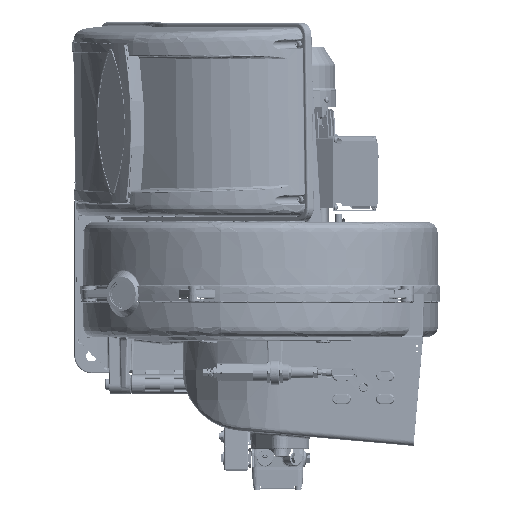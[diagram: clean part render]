
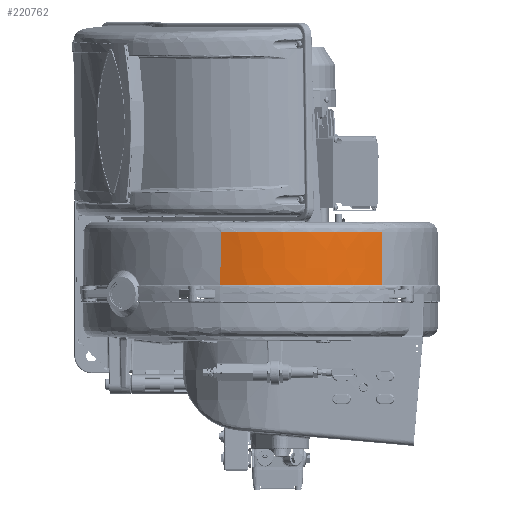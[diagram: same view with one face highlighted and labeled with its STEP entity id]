
A CAD part, left-side view. The second image highlights one B-rep face of the part: STEP entity #220762.
In plain terms, the highlighted free-form (B-spline) face has degree [3, 3] with [11, 4] control points.
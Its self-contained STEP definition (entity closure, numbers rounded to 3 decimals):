
#2608 = CARTESIAN_POINT ( 'NONE',  ( -227.738, -65.2, 11.983 ) ) ;
#13797 = EDGE_CURVE ( 'NONE', #159421, #225022, #214728, .T. ) ;
#13855 = CARTESIAN_POINT ( 'NONE',  ( -243.407, 22.954, 36.406 ) ) ;
#17289 = VERTEX_POINT ( 'NONE', #279460 ) ;
#19947 = CARTESIAN_POINT ( 'NONE',  ( -180.768, -141.215, 60.83 ) ) ;
#21118 = CARTESIAN_POINT ( 'NONE',  ( -181.405, -141.781, 11.983 ) ) ;
#22213 = CARTESIAN_POINT ( 'NONE',  ( -199.116, -117.673, 85.253 ) ) ;
#34675 = CARTESIAN_POINT ( 'NONE',  ( -241.986, -7.002, 11.983 ) ) ;
#37970 = CARTESIAN_POINT ( 'NONE',  ( -242.98, 22.955, 60.83 ) ) ;
#38627 = CARTESIAN_POINT ( 'NONE',  ( -238.603, 72.617, 11.983 ) ) ;
#46784 = CARTESIAN_POINT ( 'NONE',  ( -226.538, -64.749, 85.253 ) ) ;
#51879 = CARTESIAN_POINT ( 'NONE',  ( -186.958, -133.451, 85.253 ) ) ;
#54327 = CARTESIAN_POINT ( 'NONE',  ( -240.842, 52.753, 85.253 ) ) ;
#54533 = CARTESIAN_POINT ( 'NONE',  ( -187.291, -133.718, 60.83 ) ) ;
#64144 = CARTESIAN_POINT ( 'NONE',  ( -181.406, -141.781, 11.983 ) ) ;
#74021 = CARTESIAN_POINT ( 'NONE',  ( -237.348, 72.368, 85.253 ) ) ;
#89528 = CARTESIAN_POINT ( 'NONE',  ( -235.447, 82.103, 60.83 ) ) ;
#99567 = CARTESIAN_POINT ( 'NONE',  ( -238.185, 72.534, 36.406 ) ) ;
#102186 = CARTESIAN_POINT ( 'NONE',  ( -236.271, 82.321, 11.983 ) ) ;
#103394 = CARTESIAN_POINT ( 'NONE',  ( -226.938, -64.9, 60.83 ) ) ;
#104801 = CARTESIAN_POINT ( 'NONE',  ( -241.691, 52.862, 36.406 ) ) ;
#112258 = CARTESIAN_POINT ( 'NONE',  ( -181.087, -141.498, 36.406 ) ) ;
#117593 = CARTESIAN_POINT ( 'NONE',  ( -181.406, -141.781, 11.983 ) ) ;
#119004 = CARTESIAN_POINT ( 'NONE',  ( -236.271, 82.321, 11.983 ) ) ;
#121342 = B_SPLINE_SURFACE_WITH_KNOTS ( 'NONE', 3, 3, ( 
 ( #102186, #195989, #163839, #134283 ),
 ( #165167, #99567, #257605, #74021 ),
 ( #288465, #104801, #349832, #166478 ),
 ( #197337, #13855, #37970, #252336 ),
 ( #344543, #336182, #334814, #315910 ),
 ( #164643, #152268, #122742, #344862 ),
 ( #195004, #287019, #103394, #46784 ),
 ( #214403, #177721, #145583, #173763 ),
 ( #204603, #387838, #234055, #357077 ),
 ( #270225, #142924, #54533, #51879 ),
 ( #21118, #235386, #266243, #238045 ) ),
 .UNSPECIFIED., .F., .F., .F.,
 ( 4, 1, 1, 1, 1, 1, 1, 1, 4 ),
 ( 4, 4 ),
 ( 0., 29.865, 59.729, 89.594, 119.459, 149.323, 179.188, 209.053, 238.917 ),
 ( 0., 73.282 ),
 .UNSPECIFIED. ) ;
#122742 = CARTESIAN_POINT ( 'NONE',  ( -235.765, -36.322, 60.83 ) ) ;
#126246 = B_SPLINE_CURVE_WITH_KNOTS ( 'NONE', 3,
 ( #149349, #148027, #22213, #359507, #331453, #176183, #394267, #237835, #54327, #241761, #180132 ),
 .UNSPECIFIED., .F., .F.,
 ( 4, 1, 1, 1, 1, 1, 1, 1, 4 ),
 ( 0., 0.125, 0.25, 0.375, 0.5, 0.625, 0.75, 0.875, 1. ),
 .UNSPECIFIED. ) ;
#134283 = CARTESIAN_POINT ( 'NONE',  ( -235.028, 82.023, 85.253 ) ) ;
#142924 = CARTESIAN_POINT ( 'NONE',  ( -187.624, -133.985, 36.406 ) ) ;
#145583 = CARTESIAN_POINT ( 'NONE',  ( -214.78, -92.228, 60.83 ) ) ;
#148027 = CARTESIAN_POINT ( 'NONE',  ( -186.963, -133.444, 85.253 ) ) ;
#149349 = CARTESIAN_POINT ( 'NONE',  ( -180.449, -140.932, 85.253 ) ) ;
#152268 = CARTESIAN_POINT ( 'NONE',  ( -236.18, -36.424, 36.406 ) ) ;
#156593 = CARTESIAN_POINT ( 'NONE',  ( -236.271, 82.321, 11.983 ) ) ;
#159227 = CARTESIAN_POINT ( 'NONE',  ( -243.834, 22.953, 11.983 ) ) ;
#159421 = VERTEX_POINT ( 'NONE', #379679 ) ;
#160544 = CARTESIAN_POINT ( 'NONE',  ( -215.539, -92.621, 11.983 ) ) ;
#163839 = CARTESIAN_POINT ( 'NONE',  ( -235.442, 82.122, 60.83 ) ) ;
#164643 = CARTESIAN_POINT ( 'NONE',  ( -236.595, -36.525, 11.983 ) ) ;
#165167 = CARTESIAN_POINT ( 'NONE',  ( -238.603, 72.617, 11.983 ) ) ;
#166478 = CARTESIAN_POINT ( 'NONE',  ( -240.842, 52.762, 85.253 ) ) ;
#173763 = CARTESIAN_POINT ( 'NONE',  ( -214.401, -92.031, 85.253 ) ) ;
#176183 = CARTESIAN_POINT ( 'NONE',  ( -235.35, -36.221, 85.253 ) ) ;
#177721 = CARTESIAN_POINT ( 'NONE',  ( -215.16, -92.425, 36.406 ) ) ;
#180132 = CARTESIAN_POINT ( 'NONE',  ( -235.035, 81.994, 85.253 ) ) ;
#187341 = CARTESIAN_POINT ( 'NONE',  ( -242.115, 52.912, 11.983 ) ) ;
#191431 = EDGE_CURVE ( 'NONE', #373886, #17289, #126246, .T. ) ;
#195004 = CARTESIAN_POINT ( 'NONE',  ( -227.738, -65.2, 11.983 ) ) ;
#195444 = ORIENTED_EDGE ( 'NONE', *, *, #191431, .T. ) ;
#195989 = CARTESIAN_POINT ( 'NONE',  ( -235.857, 82.222, 36.406 ) ) ;
#197337 = CARTESIAN_POINT ( 'NONE',  ( -243.834, 22.953, 11.983 ) ) ;
#203418 = CARTESIAN_POINT ( 'NONE',  ( -180.449, -140.932, 85.253 ) ) ;
#203760 = EDGE_CURVE ( 'NONE', #373886, #225022, #311194, .T. ) ;
#204603 = CARTESIAN_POINT ( 'NONE',  ( -200.174, -118.397, 11.983 ) ) ;
#214403 = CARTESIAN_POINT ( 'NONE',  ( -215.539, -92.621, 11.983 ) ) ;
#214728 = B_SPLINE_CURVE_WITH_KNOTS ( 'NONE', 3,
 ( #156593, #38627, #187341, #159227, #34675, #283835, #2608, #160544, #281199, #374628, #64144 ),
 .UNSPECIFIED., .F., .F.,
 ( 4, 1, 1, 1, 1, 1, 1, 1, 4 ),
 ( 0., 0.125, 0.25, 0.375, 0.5, 0.625, 0.75, 0.875, 1. ),
 .UNSPECIFIED. ) ;
#215054 = FACE_OUTER_BOUND ( 'NONE', #232277, .T. ) ;
#220762 = ADVANCED_FACE ( 'NONE', ( #215054 ), #121342, .T. ) ;
#221957 = ORIENTED_EDGE ( 'NONE', *, *, #203760, .F. ) ;
#225022 = VERTEX_POINT ( 'NONE', #256837 ) ;
#232277 = EDGE_LOOP ( 'NONE', ( #221957, #195444, #384969, #283710 ) ) ;
#234055 = CARTESIAN_POINT ( 'NONE',  ( -199.467, -117.917, 60.83 ) ) ;
#235386 = CARTESIAN_POINT ( 'NONE',  ( -181.084, -141.501, 36.406 ) ) ;
#237835 = CARTESIAN_POINT ( 'NONE',  ( -242.552, 22.956, 85.253 ) ) ;
#238045 = CARTESIAN_POINT ( 'NONE',  ( -180.441, -140.942, 85.253 ) ) ;
#241761 = CARTESIAN_POINT ( 'NONE',  ( -237.351, 72.349, 85.253 ) ) ;
#242239 = CARTESIAN_POINT ( 'NONE',  ( -235.859, 82.212, 36.406 ) ) ;
#252336 = CARTESIAN_POINT ( 'NONE',  ( -242.552, 22.956, 85.253 ) ) ;
#256837 = CARTESIAN_POINT ( 'NONE',  ( -181.406, -141.781, 11.983 ) ) ;
#257605 = CARTESIAN_POINT ( 'NONE',  ( -237.766, 72.451, 60.83 ) ) ;
#266243 = CARTESIAN_POINT ( 'NONE',  ( -180.762, -141.222, 60.83 ) ) ;
#269378 = EDGE_CURVE ( 'NONE', #17289, #159421, #326765, .T. ) ;
#270225 = CARTESIAN_POINT ( 'NONE',  ( -187.956, -134.252, 11.983 ) ) ;
#279460 = CARTESIAN_POINT ( 'NONE',  ( -235.035, 81.994, 85.253 ) ) ;
#281199 = CARTESIAN_POINT ( 'NONE',  ( -200.174, -118.397, 11.983 ) ) ;
#283710 = ORIENTED_EDGE ( 'NONE', *, *, #13797, .T. ) ;
#283835 = CARTESIAN_POINT ( 'NONE',  ( -236.595, -36.525, 11.983 ) ) ;
#287019 = CARTESIAN_POINT ( 'NONE',  ( -227.338, -65.05, 36.406 ) ) ;
#288465 = CARTESIAN_POINT ( 'NONE',  ( -242.115, 52.912, 11.983 ) ) ;
#311194 = B_SPLINE_CURVE_WITH_KNOTS ( 'NONE', 3,
 ( #203418, #19947, #112258, #117593 ),
 .UNSPECIFIED., .F., .F.,
 ( 4, 4 ),
 ( 0., 1. ),
 .UNSPECIFIED. ) ;
#315910 = CARTESIAN_POINT ( 'NONE',  ( -240.714, -6.848, 85.253 ) ) ;
#326765 = B_SPLINE_CURVE_WITH_KNOTS ( 'NONE', 3,
 ( #377625, #89528, #242239, #119004 ),
 .UNSPECIFIED., .F., .F.,
 ( 4, 4 ),
 ( 0., 1. ),
 .UNSPECIFIED. ) ;
#331453 = CARTESIAN_POINT ( 'NONE',  ( -226.538, -64.749, 85.253 ) ) ;
#334814 = CARTESIAN_POINT ( 'NONE',  ( -241.138, -6.899, 60.83 ) ) ;
#336182 = CARTESIAN_POINT ( 'NONE',  ( -241.562, -6.951, 36.406 ) ) ;
#344543 = CARTESIAN_POINT ( 'NONE',  ( -241.986, -7.002, 11.983 ) ) ;
#344862 = CARTESIAN_POINT ( 'NONE',  ( -235.35, -36.221, 85.253 ) ) ;
#349832 = CARTESIAN_POINT ( 'NONE',  ( -241.266, 52.812, 60.83 ) ) ;
#357077 = CARTESIAN_POINT ( 'NONE',  ( -199.114, -117.677, 85.253 ) ) ;
#359507 = CARTESIAN_POINT ( 'NONE',  ( -214.401, -92.031, 85.253 ) ) ;
#373886 = VERTEX_POINT ( 'NONE', #390786 ) ;
#374628 = CARTESIAN_POINT ( 'NONE',  ( -187.956, -134.252, 11.983 ) ) ;
#377625 = CARTESIAN_POINT ( 'NONE',  ( -235.035, 81.994, 85.253 ) ) ;
#379679 = CARTESIAN_POINT ( 'NONE',  ( -236.271, 82.321, 11.983 ) ) ;
#384969 = ORIENTED_EDGE ( 'NONE', *, *, #269378, .T. ) ;
#387838 = CARTESIAN_POINT ( 'NONE',  ( -199.821, -118.157, 36.406 ) ) ;
#390786 = CARTESIAN_POINT ( 'NONE',  ( -180.449, -140.932, 85.253 ) ) ;
#394267 = CARTESIAN_POINT ( 'NONE',  ( -240.714, -6.848, 85.253 ) ) ;
